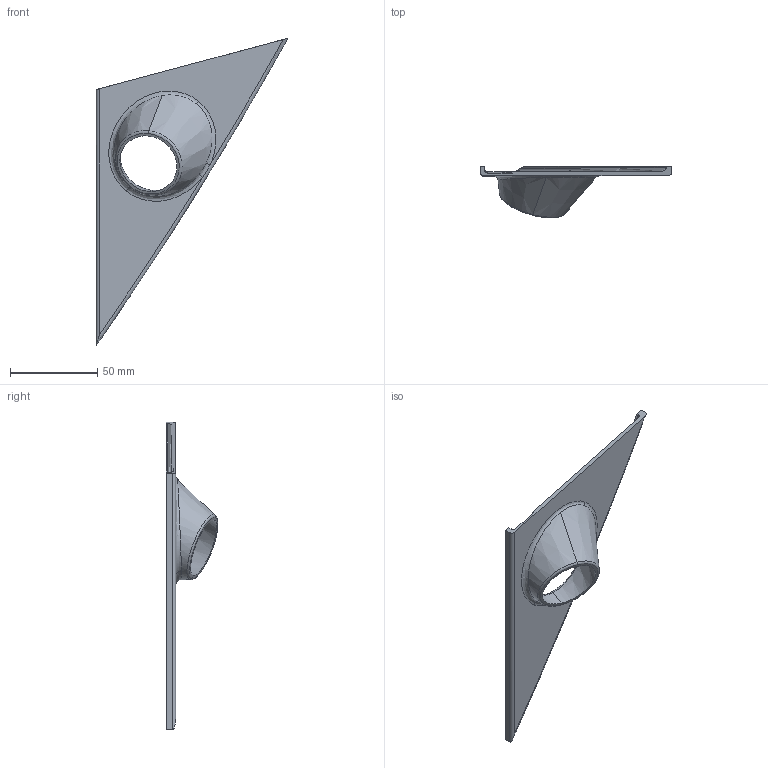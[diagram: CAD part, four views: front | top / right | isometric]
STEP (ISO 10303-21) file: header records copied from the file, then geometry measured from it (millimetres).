
FILE_DESCRIPTION (( 'STEP AP214' ), '1' );
FILE_NAME ('tweeter34mm.STEP', '2021-01-03T14:39:10', ( '' ), ( '' ), 'SwSTEP 2.0', 'SolidWorks 2018', '' );
FILE_SCHEMA (( 'AUTOMOTIVE_DESIGN' ));
Length unit declared in the file: millimetre
Products named in the file (1): tweeter34mm
Bounding box: 110.12 x 29.74 x 176.51 mm (x, y, z)
Volume: 27574.7 mm3; surface area: 21080.2 mm2
Topology: 1 solids, 1 shells, 31 faces, 85 edges, 55 vertices
Faces by surface type: plane 13, bspline 6, torus 4, cone 4, cylinder 4
Entity records: 1743 total; most frequent: CARTESIAN_POINT 993, ORIENTED_EDGE 170, DIRECTION 129, EDGE_CURVE 85, VERTEX_POINT 55, AXIS2_PLACEMENT_3D 49, EDGE_LOOP 32, VECTOR 31
